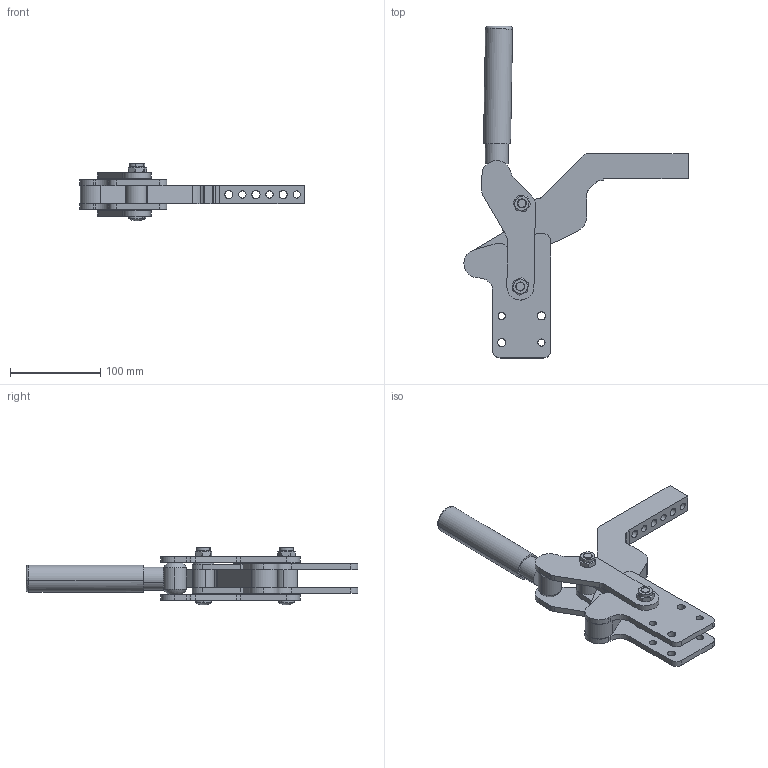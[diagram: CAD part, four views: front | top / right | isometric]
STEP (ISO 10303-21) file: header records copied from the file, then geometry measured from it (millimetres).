
FILE_DESCRIPTION((''),'2;1');
FILE_NAME('S:\Tom\INVENTOR FILES\TOGGLE\M30-20\DERIVED COMPONENTS FOR SAT CONVERSION\8mm Dowels\Steps\M30-20-03-8-181.stp','2012-10-04T15:44:51',('carl'),(''),'Autodesk Inventor 8','Autodesk Inventor 8','');
FILE_SCHEMA(('AUTOMOTIVE_DESIGN { 1 0 10303 214 1 1 1 1 }'));
Length unit declared in the file: millimetre
Products named in the file (6): M30-20-03-8-181; M30-20-03-8-1811; M30-20-03-8-1812; M30-20-03-8-1813; M30-20-03-8-1814; M30-20-03-8-1815
Assembly tree (5 placements, depth 2):
  M30-20-03-8-181
    M30-20-03-8-1811
    M30-20-03-8-1812
    M30-20-03-8-1813
    M30-20-03-8-1814
    M30-20-03-8-1815
Bounding box: 247.99 x 367.22 x 63.95 mm (x, y, z)
Volume: 532406.1 mm3; surface area: 164029.7 mm2
Topology: 10 solids, 10 shells, 328 faces, 866 edges, 577 vertices
Faces by surface type: cylinder 133, plane 133, cone 34, bspline 16, sphere 8, torus 4
Entity records: 10905 total; most frequent: CARTESIAN_POINT 2311, DIRECTION 1838, ORIENTED_EDGE 1734, EDGE_CURVE 867, AXIS2_PLACEMENT_3D 712, VERTEX_POINT 577, VECTOR 414, LINE 414
